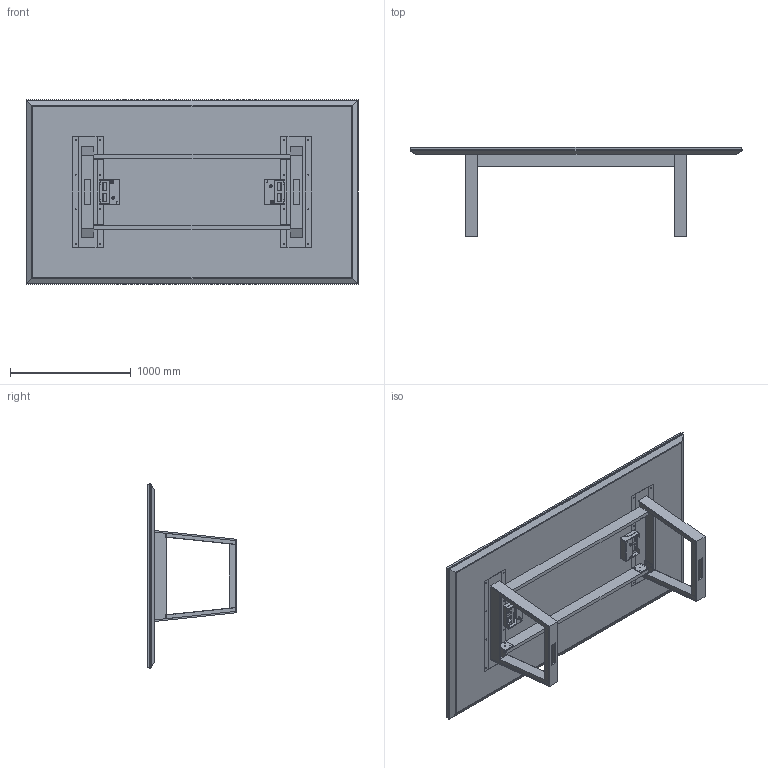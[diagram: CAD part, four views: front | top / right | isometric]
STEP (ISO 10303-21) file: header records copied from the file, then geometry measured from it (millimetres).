
FILE_DESCRIPTION(/* description */ ('','CAx-IF Rec.Pracs.---Representation and Presentation of Product Manufacturing Information (PMI)---4.0---2014-10-13'),/* implementation_level */ '2;1');
FILE_NAME(/* name */ 'TABLE_IMPRESS 7.stp',/* time_stamp */ '2024-12-07T16:03:35-05:00',/* author */ ('mbowman'),/* organization */ (''),/* preprocessor_version */ 'ST-DEVELOPER v19.2',/* originating_system */ 'Autodesk Inventor 2023',/* authorisation */ '');
FILE_SCHEMA (('AP242_MANAGED_MODEL_BASED_3D_ENGINEERING_MIM_LF { 1 0 10303 442 1 1 4 }'));
Length unit declared in the file: inch
Products named in the file (19): IMPRESS^TABLE 7_60x108 LOOP W CHASE-SOLID ASSEMBLY; IMPRESS^TABLE 7_60x108 LOOP W CHASE-TOP PARTS SOLID; ECA INTERACT+ UT (MODIFIED); ECA INTERACT+ UT (MODIFIED)_1; 8965-6403_8965-6408 no wires; 025-0043_025-0043; _ASSEM_HINGE; _ASSEM_HINGE_1; _ASSEM_HINGE_2; _ASSEM_HINGE_3; _SUPPORT; _TIGE_3; _ARM; _TIGE_2; _TIGE_1; IMPRESS^TABLE 7_60x108 LOOP W CHASE-TOP POWER LID; IMPRESS^TABLE 7_24in BASE-PARTS SOLID; IMPRESS^TABLE 7_60x108 LOOP W CHASE-KEEL; IMPRESS^TABLE 7_60x108 LOOP W CHASE-END KEEL CAP
Assembly tree (66 placements, depth 4):
  IMPRESS^TABLE 7_60x108 LOOP W CHASE-SOLID ASSEMBLY
    IMPRESS^TABLE 7_60x108 LOOP W CHASE-TOP PARTS SOLID
    ECA INTERACT+ UT (MODIFIED)  x2
      ECA INTERACT+ UT (MODIFIED)_1
      8965-6403_8965-6408 no wires
        025-0043_025-0043
    _ASSEM_HINGE
      _SUPPORT  x2
      _TIGE_3  x2
      _ARM  x4
      _TIGE_1  x2
      _TIGE_2
    _ASSEM_HINGE_1
      _SUPPORT  x2
      _TIGE_3  x2
      _ARM  x4
      _TIGE_1  x2
      _TIGE_2
    _ASSEM_HINGE_2
      _SUPPORT  x2
      _TIGE_3  x2
      _ARM  x4
      _TIGE_1  x2
      _TIGE_2
    _ASSEM_HINGE_3
      _SUPPORT  x2
      _TIGE_3  x2
      _ARM  x4
      _TIGE_1  x2
      _TIGE_2
    IMPRESS^TABLE 7_60x108 LOOP W CHASE-TOP POWER LID  x2
    IMPRESS^TABLE 7_24in BASE-PARTS SOLID  x2
    IMPRESS^TABLE 7_60x108 LOOP W CHASE-KEEL  x2
    IMPRESS^TABLE 7_60x108 LOOP W CHASE-END KEEL CAP  x2
Bounding box: 2752.72 x 742.95 x 1533.53 mm (x, y, z)
Volume: 252669935.6 mm3; surface area: 23495955.3 mm2
Topology: 90 solids, 90 shells, 4962 faces, 13538 edges, 8752 vertices
Faces by surface type: plane 2920, cylinder 1752, torus 176, cone 82, sphere 32
Full cylindrical faces by diameter (mm): 1 x84, 1.1 x8, 5.556 x16, 7.938 x20, 8 x6, 8.007 x2, 9.525 x2, 15.875 x8
Entity records: 34724 total; most frequent: CARTESIAN_POINT 9001, DIRECTION 4904, ORIENTED_EDGE 4778, EDGE_CURVE 2389, LINE 1820, VECTOR 1820, VERTEX_POINT 1556, AXIS2_PLACEMENT_3D 1542
